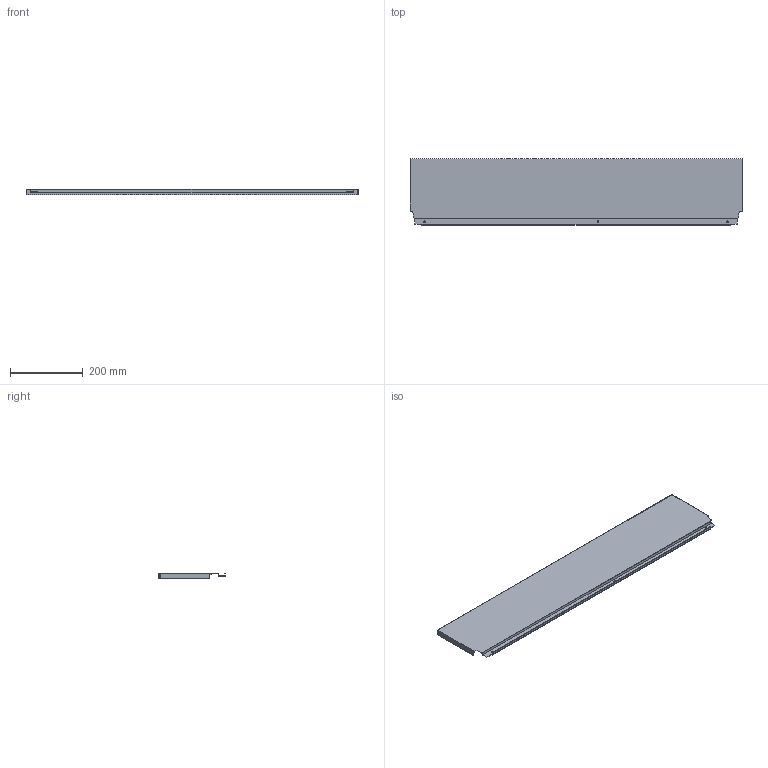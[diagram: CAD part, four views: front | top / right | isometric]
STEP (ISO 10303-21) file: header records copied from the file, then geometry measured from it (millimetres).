
FILE_DESCRIPTION (( 'STEP AP214' ), '1' );
FILE_NAME ('_DWD_XP Stahlrückwand_H182_KAB1000_S19.step', '2010-07-08T12:58:12', ( 'grass' ), ( '' ), 'SwSTEP 2.0', 'SolidWorks 2010', '' );
FILE_SCHEMA (( 'AUTOMOTIVE_DESIGN' ));
Length unit declared in the file: millimetre
Products named in the file (1): _DWD_XP Stahlrückwand_H182_KAB1000_S19
Bounding box: 911 x 182.49 x 16 mm (x, y, z)
Volume: 170739.7 mm3; surface area: 394587.8 mm2
Topology: 1 solids, 1 shells, 46 faces, 132 edges, 88 vertices
Faces by surface type: plane 40, cylinder 6
Entity records: 1534 total; most frequent: CARTESIAN_POINT 267, ORIENTED_EDGE 264, DIRECTION 238, EDGE_CURVE 132, LINE 120, VECTOR 120, VERTEX_POINT 88, AXIS2_PLACEMENT_3D 59
